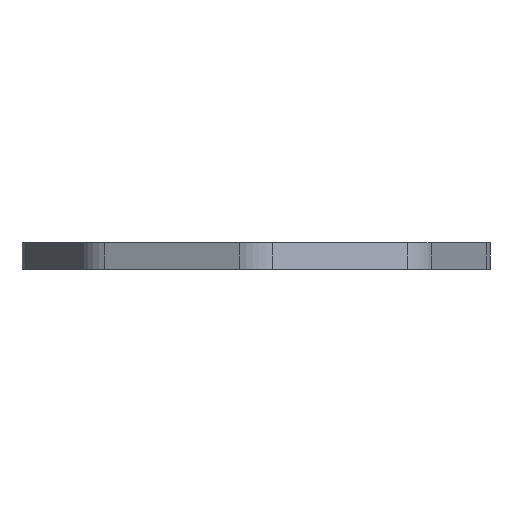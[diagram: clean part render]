
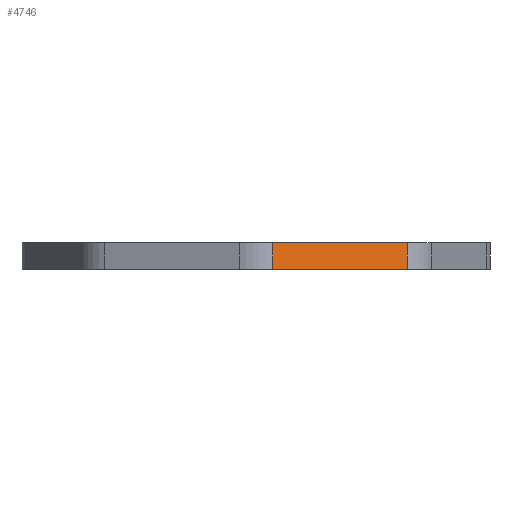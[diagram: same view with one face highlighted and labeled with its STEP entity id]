
A CAD part, front view. The second image highlights one B-rep face of the part: STEP entity #4746.
In plain terms, the highlighted planar face has unit normal (0.383, -0.924, 0).
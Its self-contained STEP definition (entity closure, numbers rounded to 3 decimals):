
#241=DIRECTION('',(0.924,0.383,0.));
#242=VECTOR('',#241,82.014);
#243=CARTESIAN_POINT('',(9.567,-130.254,0.));
#244=LINE('',#243,#242);
#779=DIRECTION('',(-0.924,-0.383,0.));
#780=VECTOR('',#779,82.014);
#781=CARTESIAN_POINT('',(85.338,-98.868,15.));
#782=LINE('',#781,#780);
#1508=DIRECTION('',(0.,0.,-1.));
#1509=VECTOR('',#1508,15.);
#1510=CARTESIAN_POINT('',(85.338,-98.868,15.));
#1511=LINE('',#1510,#1509);
#1512=DIRECTION('',(0.,0.,-1.));
#1513=VECTOR('',#1512,15.);
#1514=CARTESIAN_POINT('',(9.567,-130.254,15.));
#1515=LINE('',#1514,#1513);
#3008=CARTESIAN_POINT('',(85.338,-98.868,0.));
#3010=VERTEX_POINT('',#3008);
#3011=CARTESIAN_POINT('',(85.338,-98.868,15.));
#3012=VERTEX_POINT('',#3011);
#3015=CARTESIAN_POINT('',(9.567,-130.254,
0.));
#3017=VERTEX_POINT('',#3015);
#3021=CARTESIAN_POINT('',(9.567,-130.254,15.));
#3022=VERTEX_POINT('',#3021);
#4734=CARTESIAN_POINT('',(0.,-134.217,15.));
#4735=DIRECTION('',(0.383,-0.924,0.));
#4736=DIRECTION('',(0.924,0.383,0.));
#4737=AXIS2_PLACEMENT_3D('',#4734,#4735,#4736);
#4738=PLANE('',#4737);
#4739=ORIENTED_EDGE('',*,*,#4727,.T.);
#4740=ORIENTED_EDGE('',*,*,#3674,.F.);
#4742=ORIENTED_EDGE('',*,*,#4741,.F.);
#4743=ORIENTED_EDGE('',*,*,#4068,.F.);
#4744=EDGE_LOOP('',(#4739,#4740,#4742,#4743));
#4745=FACE_OUTER_BOUND('',#4744,.F.);
#3674=EDGE_CURVE('',#3017,#3010,#244,.T.);
#4068=EDGE_CURVE('',#3012,#3022,#782,.T.);
#4727=EDGE_CURVE('',#3012,#3010,#1511,.T.);
#4741=EDGE_CURVE('',#3022,#3017,#1515,.T.);
#4746=ADVANCED_FACE('',(#4745),#4738,.T.);
